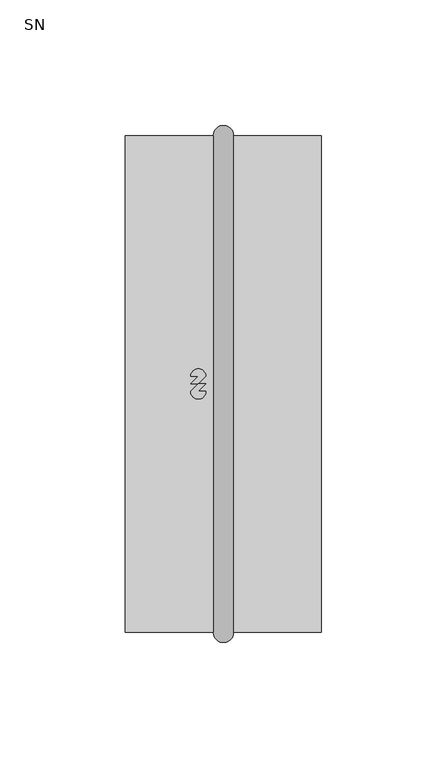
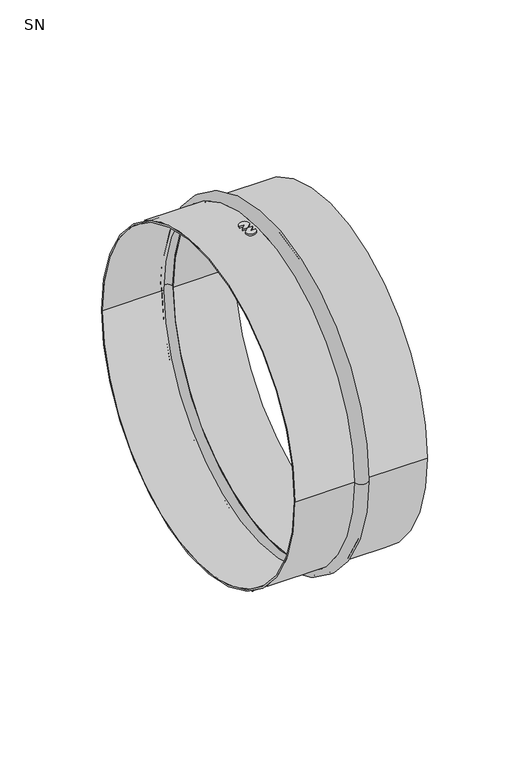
"""IFC4 building model written with IfcOpenShell, lengths in millimetres: duct fitting geometry, NLRS_57_DUF_UN_9mm_dampdichte_ronde_steekverbinding_LT_velu : SN."""

from ifc_helpers import new_model, si_unit, point, frame, frame_2d, origin, place, context, project, spatial, polyline, circle_curve, ellipse_curve, trimmed, segment, composite_curve, outline, extrude, source, transform, mapped, element, save
from ifc_brep_helpers import plane_surface, cylinder_surface, revolved_surface, advanced_brep


def sn_319440f2(model_context):
    return source(origin(), model_context, "Body", "SolidModel", [
        extrude(outline(composite_curve([segment(trimmed(circle_curve(frame_2d((-6.0, 3.0)), 3.0), [point((-9.0, 3.0))], [point((-3.0, 3.0))], False, "CARTESIAN"), True, "CONTINUOUS"), segment(polyline([(-3.0, 3.0), (-6.0, 0.0), (-9.0, 0.0), (-6.0, 3.0), (-9.0, 3.0)]), True, "CONTINUOUS")], self_intersect=False)), frame((0.0, 0.0, -101.0), z_axis=(0.0, 0.0, 1.0), x_axis=(1.0, 0.0, 0.0)), (0.0, 0.0, 1.0), 1.0),
        extrude(outline(composite_curve([segment(trimmed(circle_curve(frame_2d((-6.0, -3.0)), 3.0), [point((-3.0, -3.0))], [point((-9.0, -3.0))], False, "CARTESIAN"), True, "CONTINUOUS"), segment(polyline([(-9.0, -3.0), (-6.0, 0.0), (-3.0, 0.0), (-6.0, -3.0), (-3.0, -3.0)]), True, "CONTINUOUS")], self_intersect=False)), frame((0.0, 0.0, -101.0), z_axis=(0.0, 0.0, 1.0), x_axis=(1.0, 0.0, 0.0)), (0.0, 0.0, 1.0), 1.0),
        extrude(outline(composite_curve([segment(trimmed(circle_curve(frame_2d((-6.0, -3.0)), 3.0), [point((-3.0, -3.0))], [point((-9.0, -3.0))], False, "CARTESIAN"), True, "CONTINUOUS"), segment(polyline([(-9.0, -3.0), (-6.0, 0.0), (-3.0, 0.0), (-6.0, -3.0), (-3.0, -3.0)]), True, "CONTINUOUS")], self_intersect=False)), frame((0.0, 0.0, 100.0), z_axis=(0.0, 0.0, 1.0), x_axis=(1.0, 0.0, 0.0)), (0.0, 0.0, 1.0), 1.0),
        extrude(outline(composite_curve([segment(trimmed(circle_curve(frame_2d((-6.0, 3.0)), 3.0), [point((-9.0, 3.0))], [point((-3.0, 3.0))], False, "CARTESIAN"), True, "CONTINUOUS"), segment(polyline([(-3.0, 3.0), (-6.0, 0.0), (-9.0, 0.0), (-6.0, 3.0), (-9.0, 3.0)]), True, "CONTINUOUS")], self_intersect=False)), frame((0.0, 0.0, 100.0), z_axis=(0.0, 0.0, 1.0), x_axis=(1.0, 0.0, 0.0)), (0.0, 0.0, 1.0), 1.0),
        advanced_brep(
        [(-35.0, 98.0, 0.0), (-35.0, -98.0, 0.0), (1.0, -98.0, 0.0), (1.0, 98.0, 0.0), (0.0, 99.0, 0.0), (0.0, -99.0, 0.0), (-35.0, -99.0, 0.0), (-35.0, 99.0, 0.0), (8.0, 99.0, 0.0), (8.0, -99.0, 0.0), (43.0, 99.0, 0.0), (43.0, -99.0, 0.0), (7.0, 98.0, 0.0), (7.0, -98.0, 0.0), (43.0, -98.0, 0.0), (43.0, 98.0, 0.0), (1.0, 99.0, 0.0), (1.0, -99.0, 0.0), (7.0, -99.0, 0.0), (7.0, 99.0, 0.0)],
        [
            (0, 1, circle_curve(frame((-35.0, 0.0, 0.0), z_axis=(-1.0, 0.0, 0.0), x_axis=(0.0, -1.0, 0.0)), 98.0)),
            (1, 2),
            (2, 3, circle_curve(frame((1.0, 0.0, 0.0), z_axis=(1.0, 0.0, 0.0), x_axis=(0.0, -1.0, 0.0)), 98.0)),
            (3, 0),
            (4, 5, circle_curve(frame((0.0, 0.0, 0.0), z_axis=(-1.0, 0.0, 0.0), x_axis=(0.0, -1.0, 0.0)), 99.0)),
            (5, 6),
            (6, 7, circle_curve(frame((-35.0, 0.0, 0.0), z_axis=(1.0, 0.0, 0.0), x_axis=(0.0, -1.0, 0.0)), 99.0)),
            (7, 4),
            (8, 9, circle_curve(frame((8.0, 0.0, 0.0), z_axis=(-1.0, 0.0, 0.0), x_axis=(0.0, -1.0, 0.0)), 99.0)),
            (9, 5, circle_curve(frame((4.0, -99.0, 0.0), z_axis=(0.0, 0.0, -1.0), x_axis=(1.0, 0.0, 0.0)), 4.0)),
            (4, 8, circle_curve(frame((4.0, 99.0, 0.0), z_axis=(0.0, 0.0, -1.0), x_axis=(1.0, 0.0, 0.0)), 4.0)),
            (10, 11, circle_curve(frame((43.0, 0.0, 0.0), z_axis=(-1.0, 0.0, 0.0), x_axis=(0.0, -1.0, 0.0)), 99.0)),
            (11, 9),
            (8, 10),
            (12, 13, circle_curve(frame((7.0, 0.0, 0.0), z_axis=(-1.0, 0.0, 0.0), x_axis=(0.0, -1.0, 0.0)), 98.0)),
            (13, 14),
            (14, 15, circle_curve(frame((43.0, 0.0, 0.0), z_axis=(1.0, 0.0, 0.0), x_axis=(0.0, -1.0, 0.0)), 98.0)),
            (15, 12),
            (16, 17, circle_curve(frame((1.0, 0.0, 0.0), z_axis=(-1.0, 0.0, 0.0), x_axis=(0.0, -1.0, 0.0)), 99.0)),
            (17, 18, circle_curve(frame((4.0, -99.0, 0.0), z_axis=(0.0, 0.0, 1.0), x_axis=(1.0, 0.0, 0.0)), 3.0)),
            (18, 19, circle_curve(frame((7.0, 0.0, 0.0), z_axis=(1.0, 0.0, 0.0), x_axis=(0.0, -1.0, 0.0)), 99.0)),
            (19, 16, circle_curve(frame((4.0, 99.0, 0.0), z_axis=(0.0, 0.0, 1.0), x_axis=(1.0, 0.0, 0.0)), 3.0)),
            (1, 0, circle_curve(frame((-35.0, 0.0, 0.0), z_axis=(-1.0, 0.0, 0.0), x_axis=(0.0, 1.0, 0.0)), 98.0)),
            (3, 2, circle_curve(frame((1.0, 0.0, 0.0), z_axis=(1.0, 0.0, 0.0), x_axis=(0.0, 1.0, 0.0)), 98.0)),
            (6, 7, circle_curve(frame((-35.0, 0.0, 0.0), z_axis=(-1.0, 0.0, 0.0), x_axis=(0.0, 1.0, 0.0)), 99.0)),
            (5, 4, circle_curve(frame((0.0, 0.0, 0.0), z_axis=(-1.0, 0.0, 0.0), x_axis=(0.0, 1.0, 0.0)), 99.0)),
            (9, 8, circle_curve(frame((8.0, 0.0, 0.0), z_axis=(-1.0, 0.0, 0.0), x_axis=(0.0, 1.0, 0.0)), 99.0)),
            (11, 10, circle_curve(frame((43.0, 0.0, 0.0), z_axis=(-1.0, 0.0, 0.0), x_axis=(0.0, 1.0, 0.0)), 99.0)),
            (14, 15, circle_curve(frame((43.0, 0.0, 0.0), z_axis=(-1.0, 0.0, 0.0), x_axis=(0.0, 1.0, 0.0)), 98.0)),
            (13, 12, circle_curve(frame((7.0, 0.0, 0.0), z_axis=(-1.0, 0.0, 0.0), x_axis=(0.0, 1.0, 0.0)), 98.0)),
            (18, 19, circle_curve(frame((7.0, 0.0, 0.0), z_axis=(-1.0, 0.0, 0.0), x_axis=(0.0, 1.0, 0.0)), 99.0)),
            (17, 16, circle_curve(frame((1.0, 0.0, 0.0), z_axis=(-1.0, 0.0, 0.0), x_axis=(0.0, 1.0, 0.0)), 99.0)),
        ],
        [
            revolved_surface(polyline([(1.0, -98.0, 0.0), (-35.0, -98.0, 0.0)]), (0.0, 0.0, 0.0), (1.0, 0.0, 0.0)),
            cylinder_surface(frame((0.0, 0.0, 0.0), z_axis=(1.0, 0.0, 0.0), x_axis=(0.0, -1.0, 0.0)), 99.0),
            revolved_surface(trimmed(ellipse_curve(frame((4.0, -99.0, 0.0), z_axis=(0.0, 0.0, 1.0), x_axis=(1.0, 0.0, 0.0)), 4.0, 4.0), [point((0.0, -99.0, 0.0))], [point((8.0, -99.0, 0.0))], True, "CARTESIAN"), (0.0, 0.0, 0.0), (1.0, 0.0, 0.0)),
            revolved_surface(polyline([(43.0, -98.0, 0.0), (7.0, -98.0, 0.0)]), (0.0, 0.0, 0.0), (1.0, 0.0, 0.0)),
            revolved_surface(trimmed(ellipse_curve(frame((4.0, -99.0, 0.0), z_axis=(0.0, 0.0, -1.0), x_axis=(1.0, 0.0, 0.0)), 3.0, 3.0), [point((7.0, -99.0, 0.0))], [point((1.0, -99.0, 0.0))], True, "CARTESIAN"), (0.0, 0.0, 0.0), (1.0, 0.0, 0.0)),
            revolved_surface(polyline([(1.0, 98.0, 0.0), (-35.0, 98.0, 0.0)]), (0.0, 0.0, 0.0), (1.0, 0.0, 0.0)),
            plane_surface(frame((-35.0, 0.0, 0.0), z_axis=(-1.0, 0.0, 0.0), x_axis=(0.0, 1.0, 0.0))),
            cylinder_surface(frame((0.0, 0.0, 0.0), z_axis=(1.0, 0.0, 0.0), x_axis=(0.0, 1.0, 0.0)), 99.0),
            revolved_surface(trimmed(ellipse_curve(frame((4.0, 99.0, 0.0), z_axis=(0.0, 0.0, -1.0), x_axis=(1.0, 0.0, 0.0)), 4.0, 4.0), [point((0.0, 99.0, 0.0))], [point((8.0, 99.0, 0.0))], True, "CARTESIAN"), (0.0, 0.0, 0.0), (1.0, 0.0, 0.0)),
            plane_surface(frame((43.0, 0.0, 0.0), z_axis=(1.0, 0.0, 0.0), x_axis=(0.0, 1.0, 0.0))),
            revolved_surface(polyline([(43.0, 98.0, 0.0), (7.0, 98.0, 0.0)]), (0.0, 0.0, 0.0), (1.0, 0.0, 0.0)),
            plane_surface(frame((7.0, 0.0, 0.0), z_axis=(-1.0, 0.0, 0.0), x_axis=(0.0, 1.0, 0.0))),
            revolved_surface(trimmed(ellipse_curve(frame((4.0, 99.0, 0.0), z_axis=(0.0, 0.0, 1.0), x_axis=(1.0, 0.0, 0.0)), 3.0, 3.0), [point((7.0, 99.0, 0.0))], [point((1.0, 99.0, 0.0))], True, "CARTESIAN"), (0.0, 0.0, 0.0), (1.0, 0.0, 0.0)),
            plane_surface(frame((1.0, 0.0, 0.0), z_axis=(1.0, 0.0, 0.0), x_axis=(0.0, 1.0, 0.0))),
        ],
        [
            (0, [[1, 2, 3, 4]]),
            (1, [[5, 6, 7, 8]]),
            (2, [[9, 10, -5, 11]]),
            (1, [[12, 13, -9, 14]]),
            (3, [[15, 16, 17, 18]]),
            (4, [[19, 20, 21, 22]]),
            (5, [[23, -4, 24, -2]]),
            (6, [[25, -7], [-23, -1]]),
            (7, [[26, -8, -25, -6]]),
            (8, [[27, -11, -26, -10]]),
            (7, [[28, -14, -27, -13]]),
            (9, [[-28, -12], [29, -17]]),
            (10, [[30, -18, -29, -16]]),
            (11, [[31, -21], [-30, -15]]),
            (12, [[32, -22, -31, -20]]),
            (13, [[-32, -19], [-24, -3]]),
        ],
    ),
    ])


if __name__ == "__main__":
    model = new_model("IFC4")
    model_context = context("Model", 3, world=origin())
    ifc_project = project(units=[si_unit("LENGTHUNIT", "METRE", prefix="MILLI")], contexts=[model_context])
    site = spatial("IfcSite", under=ifc_project)
    building = spatial("IfcBuilding", under=site)
    placement = place(None, origin())
    sn_shape = sn_319440f2(model_context)
    element("IfcDuctFitting", 1, ObjectType="NLRS_57_DUF_UN_9mm_dampdichte_ronde_steekverbinding_LT_velu : SN", at=placement, inside=building, context=model_context, shape_type="MappedRepresentation", body=[
        mapped(sn_shape, transform((0.0, 0.0, 0.0), x_axis=(1.0, 0.0, 0.0), y_axis=(0.0, 1.0, 0.0), z_axis=(0.0, 0.0, 1.0))),
    ])
    save(model, "model.ifc")
